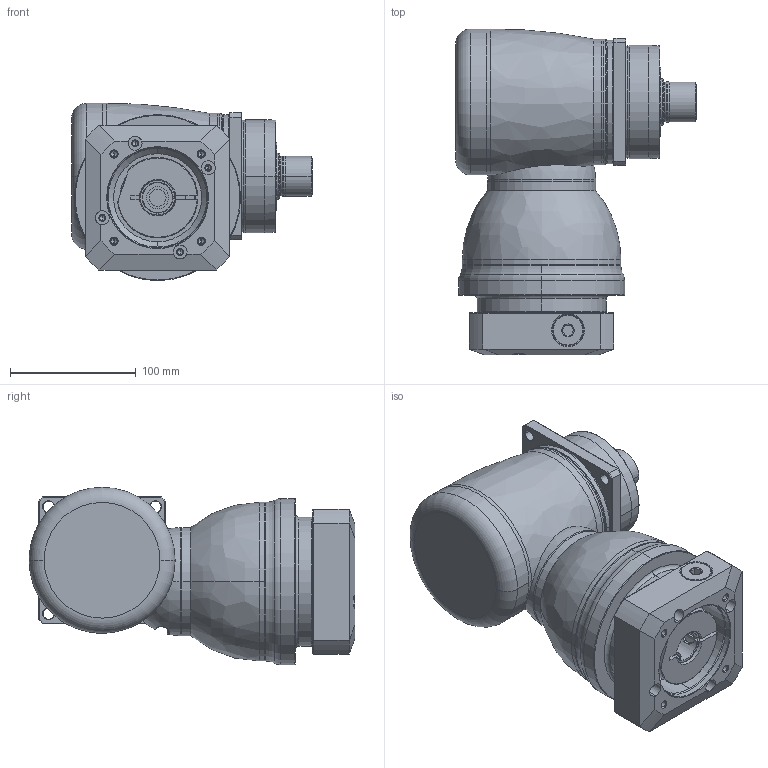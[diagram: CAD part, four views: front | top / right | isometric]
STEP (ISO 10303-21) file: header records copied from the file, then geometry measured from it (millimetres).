
FILE_DESCRIPTION((''),'2;1');
FILE_NAME('KF100_S3_1ST_24-P0409500101_ASM','2016-07-01T',('d01943'),(''),'PRO/ENGINEER BY PARAMETRIC TECHNOLOGY CORPORATION, 2008410','PRO/ENGINEER BY PARAMETRIC TECHNOLOGY CORPORATION, 2008410','');
FILE_SCHEMA(('CONFIG_CONTROL_DESIGN'));
Length unit declared in the file: millimetre
Products named in the file (11): P1008400002; P1804400001; P0915402001; P1315400001; P1007400001; P1318400101; P0409500101; P0503500010; P0912401001; 21711418017; KF100_S3_1ST_24-P0409500101_ASM
Assembly tree (10 placements, depth 2):
  KF100_S3_1ST_24-P0409500101_ASM
    P1008400002
    P1804400001
    P0915402001
    P1315400001
    P1007400001
    P1318400101
    P0409500101
    P0503500010
    P0912401001
    21711418017
Bounding box: 191.3 x 259 x 141 mm (x, y, z)
Volume: 2802280.1 mm3; surface area: 320962.7 mm2
Topology: 11 solids, 11 shells, 498 faces, 1122 edges, 663 vertices
Faces by surface type: cylinder 168, cone 130, plane 100, torus 64, bspline 34, sphere 2
Entity records: 19933 total; most frequent: CARTESIAN_POINT 8635, DIRECTION 2476, ORIENTED_EDGE 2204, EDGE_CURVE 1102, AXIS2_PLACEMENT_3D 1049, VERTEX_POINT 663, EDGE_LOOP 567, CIRCLE 564
